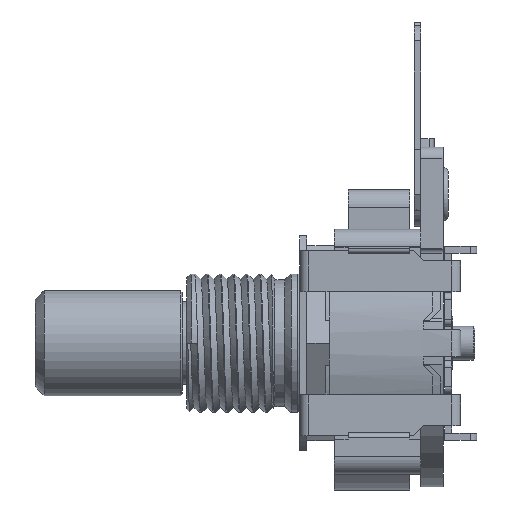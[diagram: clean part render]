
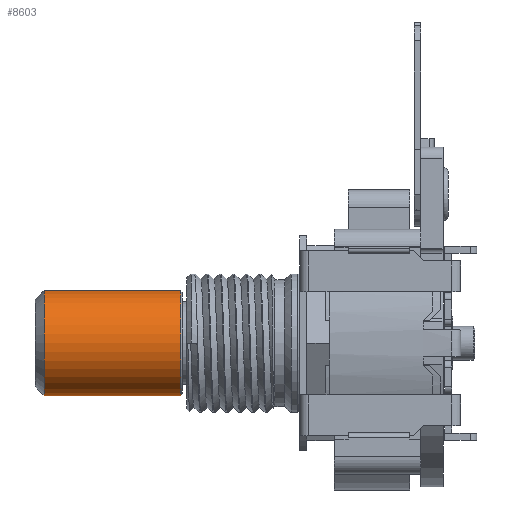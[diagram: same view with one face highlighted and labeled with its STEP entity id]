
A CAD part, left-side view. The second image highlights one B-rep face of the part: STEP entity #8603.
In plain terms, the highlighted cylindrical face has radius 3 mm (diameter 6 mm), a partial arc.
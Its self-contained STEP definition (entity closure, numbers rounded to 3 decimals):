
#336 = CARTESIAN_POINT ( 'NONE',  ( 0., 0., 0. ) ) ;
#338 = DIRECTION ( 'NONE',  ( 0., -1., 0. ) ) ;
#551 = DIRECTION ( 'NONE',  ( 0., -1., 0. ) ) ;
#794 = CARTESIAN_POINT ( 'NONE',  ( 0., 16.794, 3. ) ) ;
#1580 = CIRCLE ( 'NONE', #13385, 3. ) ;
#2011 = VERTEX_POINT ( 'NONE', #17708 ) ;
#2367 = ORIENTED_EDGE ( 'NONE', *, *, #18143, .F. ) ;
#2488 = CIRCLE ( 'NONE', #13608, 3. ) ;
#3129 = CARTESIAN_POINT ( 'NONE',  ( 0., 16.794, 0. ) ) ;
#3662 = CARTESIAN_POINT ( 'NONE',  ( 0., 24.592, 0. ) ) ;
#5314 = CARTESIAN_POINT ( 'NONE',  ( 0., 24.592, 3. ) ) ;
#5386 = ORIENTED_EDGE ( 'NONE', *, *, #19388, .T. ) ;
#6681 = CARTESIAN_POINT ( 'NONE',  ( 0., 0., 3. ) ) ;
#6821 = DIRECTION ( 'NONE',  ( 0., 0., -1. ) ) ;
#7201 = CYLINDRICAL_SURFACE ( 'NONE', #14908, 3. ) ;
#8475 = LINE ( 'NONE', #6681, #13270 ) ;
#8603 = ADVANCED_FACE ( 'NONE', ( #13223 ), #7201, .T. ) ;
#8664 = VERTEX_POINT ( 'NONE', #5314 ) ;
#9176 = ORIENTED_EDGE ( 'NONE', *, *, #11737, .F. ) ;
#9341 = VERTEX_POINT ( 'NONE', #794 ) ;
#9557 = CARTESIAN_POINT ( 'NONE',  ( 0., 24.592, -3. ) ) ;
#10064 = DIRECTION ( 'NONE',  ( 0., 0., -1. ) ) ;
#10103 = DIRECTION ( 'NONE',  ( 0., -1., 0. ) ) ;
#10300 = ORIENTED_EDGE ( 'NONE', *, *, #14432, .T. ) ;
#10623 = VECTOR ( 'NONE', #17399, 1000. ) ;
#10957 = LINE ( 'NONE', #17498, #10623 ) ;
#11737 = EDGE_CURVE ( 'NONE', #8664, #9341, #8475, .T. ) ;
#13223 = FACE_OUTER_BOUND ( 'NONE', #15522, .T. ) ;
#13270 = VECTOR ( 'NONE', #338, 1000. ) ;
#13385 = AXIS2_PLACEMENT_3D ( 'NONE', #3129, #19085, #17499 ) ;
#13608 = AXIS2_PLACEMENT_3D ( 'NONE', #3662, #10103, #6821 ) ;
#14432 = EDGE_CURVE ( 'NONE', #15934, #2011, #10957, .T. ) ;
#14908 = AXIS2_PLACEMENT_3D ( 'NONE', #336, #551, #10064 ) ;
#15522 = EDGE_LOOP ( 'NONE', ( #9176, #5386, #10300, #2367 ) ) ;
#15934 = VERTEX_POINT ( 'NONE', #9557 ) ;
#17399 = DIRECTION ( 'NONE',  ( 0., -1., 0. ) ) ;
#17498 = CARTESIAN_POINT ( 'NONE',  ( 0., 0., -3. ) ) ;
#17499 = DIRECTION ( 'NONE',  ( 0., 0., -1. ) ) ;
#17708 = CARTESIAN_POINT ( 'NONE',  ( 0., 16.794, -3. ) ) ;
#18143 = EDGE_CURVE ( 'NONE', #9341, #2011, #1580, .T. ) ;
#19085 = DIRECTION ( 'NONE',  ( 0., -1., 0. ) ) ;
#19388 = EDGE_CURVE ( 'NONE', #8664, #15934, #2488, .T. ) ;
